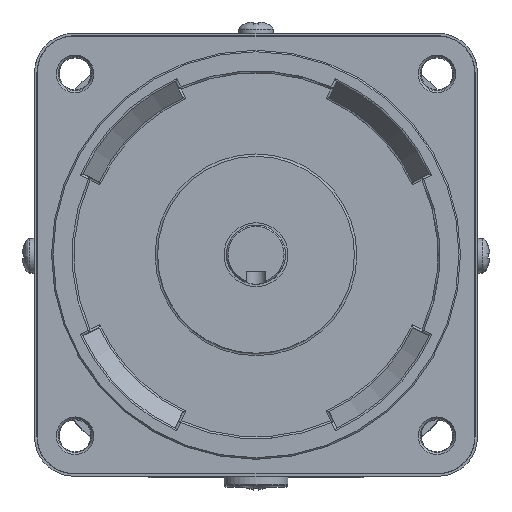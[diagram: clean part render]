
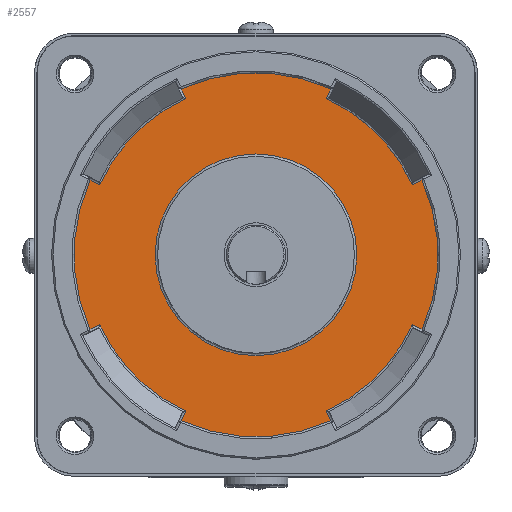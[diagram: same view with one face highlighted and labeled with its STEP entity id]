
A CAD part, top view. The second image highlights one B-rep face of the part: STEP entity #2557.
In plain terms, the highlighted planar face has unit normal (0, 0, 1).
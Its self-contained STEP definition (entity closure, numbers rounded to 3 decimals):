
#30 = VERTEX_POINT ( 'NONE', #14008 ) ;
#295 = CARTESIAN_POINT ( 'NONE',  ( 0., 0., -2. ) ) ;
#553 = ORIENTED_EDGE ( 'NONE', *, *, #1845, .T. ) ;
#755 = VERTEX_POINT ( 'NONE', #5558 ) ;
#930 = AXIS2_PLACEMENT_3D ( 'NONE', #14982, #7952, #5659 ) ;
#1073 = EDGE_CURVE ( 'NONE', #4031, #4149, #13074, .T. ) ;
#1146 = CIRCLE ( 'NONE', #4332, 20.5 ) ;
#1158 = AXIS2_PLACEMENT_3D ( 'NONE', #14625, #4239, #4169 ) ;
#1240 = CARTESIAN_POINT ( 'NONE',  ( -15.177, -33.73, -2. ) ) ;
#1370 = CARTESIAN_POINT ( 'NONE',  ( -14.338, 31.932, -2. ) ) ;
#1478 = CARTESIAN_POINT ( 'NONE',  ( 0., 0., -2. ) ) ;
#1538 = CARTESIAN_POINT ( 'NONE',  ( 14.242, 31.725, -2. ) ) ;
#1754 = VECTOR ( 'NONE', #7155, 1000. ) ;
#1845 = EDGE_CURVE ( 'NONE', #12634, #13134, #12842, .T. ) ;
#1846 = VERTEX_POINT ( 'NONE', #9884 ) ;
#1868 = ORIENTED_EDGE ( 'NONE', *, *, #4727, .T. ) ;
#1887 = ORIENTED_EDGE ( 'NONE', *, *, #5253, .T. ) ;
#1893 = CARTESIAN_POINT ( 'NONE',  ( 15.177, -33.73, -2. ) ) ;
#2044 = DIRECTION ( 'NONE',  ( -0.423, 0.906, 0. ) ) ;
#2177 = ORIENTED_EDGE ( 'NONE', *, *, #3215, .T. ) ;
#2282 = AXIS2_PLACEMENT_3D ( 'NONE', #10611, #4589, #6013 ) ;
#2423 = CARTESIAN_POINT ( 'NONE',  ( 0.211, 0.453, -2. ) ) ;
#2557 = ADVANCED_FACE ( 'NONE', ( #11200, #13408 ), #5294, .T. ) ;
#2580 = DIRECTION ( 'NONE',  ( 1., 0., 0. ) ) ;
#2671 = VERTEX_POINT ( 'NONE', #4740 ) ;
#2696 = EDGE_CURVE ( 'NONE', #755, #4498, #6043, .T. ) ;
#2856 = DIRECTION ( 'NONE',  ( 0., 0., 1. ) ) ;
#2903 = ORIENTED_EDGE ( 'NONE', *, *, #2696, .T. ) ;
#3046 = EDGE_CURVE ( 'NONE', #4498, #12634, #3209, .T. ) ;
#3118 = ORIENTED_EDGE ( 'NONE', *, *, #1073, .T. ) ;
#3168 = EDGE_CURVE ( 'NONE', #9737, #30, #8864, .T. ) ;
#3209 = LINE ( 'NONE', #7856, #14962 ) ;
#3215 = EDGE_CURVE ( 'NONE', #10537, #4454, #14494, .T. ) ;
#3493 = ORIENTED_EDGE ( 'NONE', *, *, #10694, .T. ) ;
#3514 = EDGE_CURVE ( 'NONE', #5640, #2671, #10345, .T. ) ;
#3525 = VERTEX_POINT ( 'NONE', #8107 ) ;
#3651 = LINE ( 'NONE', #2423, #1754 ) ;
#3810 = DIRECTION ( 'NONE',  ( 1., 0., 0. ) ) ;
#3839 = DIRECTION ( 'NONE',  ( 1., 0., 0. ) ) ;
#4031 = VERTEX_POINT ( 'NONE', #5029 ) ;
#4149 = VERTEX_POINT ( 'NONE', #7703 ) ;
#4169 = DIRECTION ( 'NONE',  ( 1., 0., 0. ) ) ;
#4239 = DIRECTION ( 'NONE',  ( 0., 0., 1. ) ) ;
#4293 = DIRECTION ( 'NONE',  ( -0.906, 0.423, 0. ) ) ;
#4332 = AXIS2_PLACEMENT_3D ( 'NONE', #11570, #5589, #10253 ) ;
#4334 = CARTESIAN_POINT ( 'NONE',  ( -33.73, -15.177, -2. ) ) ;
#4454 = VERTEX_POINT ( 'NONE', #1240 ) ;
#4483 = CIRCLE ( 'NONE', #8373, 36.987 ) ;
#4498 = VERTEX_POINT ( 'NONE', #1538 ) ;
#4583 = CARTESIAN_POINT ( 'NONE',  ( -14.242, -31.725, -2. ) ) ;
#4589 = DIRECTION ( 'NONE',  ( 0., 0., 1. ) ) ;
#4727 = EDGE_CURVE ( 'NONE', #2671, #5332, #6801, .T. ) ;
#4740 = CARTESIAN_POINT ( 'NONE',  ( -31.725, 14.242, -2. ) ) ;
#4890 = LINE ( 'NONE', #1370, #13172 ) ;
#4954 = DIRECTION ( 'NONE',  ( 0., 0., 1. ) ) ;
#5029 = CARTESIAN_POINT ( 'NONE',  ( 33.73, -15.177, -2. ) ) ;
#5139 = DIRECTION ( 'NONE',  ( 1., 0., 0. ) ) ;
#5253 = EDGE_CURVE ( 'NONE', #11675, #1846, #7124, .T. ) ;
#5294 = PLANE ( 'NONE',  #1158 ) ;
#5332 = VERTEX_POINT ( 'NONE', #11241 ) ;
#5448 = VECTOR ( 'NONE', #14423, 1000. ) ;
#5504 = CARTESIAN_POINT ( 'NONE',  ( 0., 0., -2. ) ) ;
#5510 = CARTESIAN_POINT ( 'NONE',  ( -14.242, 31.725, -2. ) ) ;
#5558 = CARTESIAN_POINT ( 'NONE',  ( 31.725, 14.242, -2. ) ) ;
#5589 = DIRECTION ( 'NONE',  ( 0., 0., -1. ) ) ;
#5640 = VERTEX_POINT ( 'NONE', #5510 ) ;
#5659 = DIRECTION ( 'NONE',  ( 1., 0., 0. ) ) ;
#5799 = CIRCLE ( 'NONE', #930, 34.775 ) ;
#5998 = VECTOR ( 'NONE', #9587, 1000. ) ;
#6013 = DIRECTION ( 'NONE',  ( 1., 0., 0. ) ) ;
#6043 = CIRCLE ( 'NONE', #8237, 34.775 ) ;
#6102 = VERTEX_POINT ( 'NONE', #1893 ) ;
#6579 = DIRECTION ( 'NONE',  ( 1., 0., 0. ) ) ;
#6801 = LINE ( 'NONE', #14901, #11363 ) ;
#6962 = EDGE_CURVE ( 'NONE', #1846, #10537, #5799, .T. ) ;
#6976 = CARTESIAN_POINT ( 'NONE',  ( -31.932, -14.338, -2. ) ) ;
#7124 = LINE ( 'NONE', #6976, #5998 ) ;
#7155 = DIRECTION ( 'NONE',  ( 0.906, -0.423, 0. ) ) ;
#7166 = ORIENTED_EDGE ( 'NONE', *, *, #11547, .T. ) ;
#7695 = ORIENTED_EDGE ( 'NONE', *, *, #3168, .T. ) ;
#7703 = CARTESIAN_POINT ( 'NONE',  ( 33.73, 15.177, -2. ) ) ;
#7856 = CARTESIAN_POINT ( 'NONE',  ( -0.453, 0.211, -2. ) ) ;
#7952 = DIRECTION ( 'NONE',  ( 0., 0., 1. ) ) ;
#7965 = LINE ( 'NONE', #14920, #8799 ) ;
#8107 = CARTESIAN_POINT ( 'NONE',  ( 20.5, 0., -2. ) ) ;
#8237 = AXIS2_PLACEMENT_3D ( 'NONE', #295, #4954, #3810 ) ;
#8373 = AXIS2_PLACEMENT_3D ( 'NONE', #11135, #14639, #9839 ) ;
#8456 = DIRECTION ( 'NONE',  ( 0., 0., 1. ) ) ;
#8605 = DIRECTION ( 'NONE',  ( 0.423, -0.906, 0. ) ) ;
#8799 = VECTOR ( 'NONE', #14995, 1000. ) ;
#8864 = CIRCLE ( 'NONE', #2282, 34.775 ) ;
#8998 = LINE ( 'NONE', #9313, #14469 ) ;
#9010 = EDGE_CURVE ( 'NONE', #3525, #3525, #1146, .T. ) ;
#9035 = AXIS2_PLACEMENT_3D ( 'NONE', #12206, #8456, #2580 ) ;
#9313 = CARTESIAN_POINT ( 'NONE',  ( 14.338, -31.932, -2. ) ) ;
#9347 = CARTESIAN_POINT ( 'NONE',  ( 0., 0., -2. ) ) ;
#9504 = DIRECTION ( 'NONE',  ( 0., 0., 1. ) ) ;
#9507 = EDGE_CURVE ( 'NONE', #30, #4031, #3651, .T. ) ;
#9587 = DIRECTION ( 'NONE',  ( 0.906, 0.423, 0. ) ) ;
#9737 = VERTEX_POINT ( 'NONE', #12637 ) ;
#9768 = ORIENTED_EDGE ( 'NONE', *, *, #10425, .T. ) ;
#9839 = DIRECTION ( 'NONE',  ( 1., 0., 0. ) ) ;
#9884 = CARTESIAN_POINT ( 'NONE',  ( -31.725, -14.242, -2. ) ) ;
#9933 = AXIS2_PLACEMENT_3D ( 'NONE', #5504, #13461, #6579 ) ;
#9948 = ORIENTED_EDGE ( 'NONE', *, *, #14839, .T. ) ;
#10187 = EDGE_LOOP ( 'NONE', ( #11506 ) ) ;
#10253 = DIRECTION ( 'NONE',  ( 1., 0., 0. ) ) ;
#10345 = CIRCLE ( 'NONE', #12533, 34.775 ) ;
#10425 = EDGE_CURVE ( 'NONE', #6102, #9737, #8998, .T. ) ;
#10537 = VERTEX_POINT ( 'NONE', #4583 ) ;
#10611 = CARTESIAN_POINT ( 'NONE',  ( 0., 0., -2. ) ) ;
#10694 = EDGE_CURVE ( 'NONE', #4454, #6102, #4483, .T. ) ;
#10772 = ORIENTED_EDGE ( 'NONE', *, *, #6962, .T. ) ;
#11135 = CARTESIAN_POINT ( 'NONE',  ( 0., 0., -2. ) ) ;
#11200 = FACE_OUTER_BOUND ( 'NONE', #11821, .T. ) ;
#11241 = CARTESIAN_POINT ( 'NONE',  ( -33.73, 15.177, -2. ) ) ;
#11363 = VECTOR ( 'NONE', #4293, 1000. ) ;
#11506 = ORIENTED_EDGE ( 'NONE', *, *, #9010, .T. ) ;
#11547 = EDGE_CURVE ( 'NONE', #13134, #5640, #4890, .T. ) ;
#11570 = CARTESIAN_POINT ( 'NONE',  ( 0., 0., -2. ) ) ;
#11675 = VERTEX_POINT ( 'NONE', #4334 ) ;
#11821 = EDGE_LOOP ( 'NONE', ( #13411, #3118, #9948, #2903, #13160, #553, #7166, #13647, #1868, #14204, #1887, #10772, #2177, #3493, #9768, #7695 ) ) ;
#12206 = CARTESIAN_POINT ( 'NONE',  ( 0., 0., -2. ) ) ;
#12382 = CARTESIAN_POINT ( 'NONE',  ( 15.177, 33.73, -2. ) ) ;
#12533 = AXIS2_PLACEMENT_3D ( 'NONE', #9347, #9504, #3839 ) ;
#12634 = VERTEX_POINT ( 'NONE', #12382 ) ;
#12637 = CARTESIAN_POINT ( 'NONE',  ( 14.242, -31.725, -2. ) ) ;
#12842 = CIRCLE ( 'NONE', #9933, 36.987 ) ;
#13074 = CIRCLE ( 'NONE', #14789, 36.987 ) ;
#13134 = VERTEX_POINT ( 'NONE', #13950 ) ;
#13160 = ORIENTED_EDGE ( 'NONE', *, *, #3046, .T. ) ;
#13172 = VECTOR ( 'NONE', #8605, 1000. ) ;
#13351 = CARTESIAN_POINT ( 'NONE',  ( 0.453, -0.211, -2. ) ) ;
#13408 = FACE_BOUND ( 'NONE', #10187, .T. ) ;
#13411 = ORIENTED_EDGE ( 'NONE', *, *, #9507, .T. ) ;
#13461 = DIRECTION ( 'NONE',  ( 0., 0., 1. ) ) ;
#13647 = ORIENTED_EDGE ( 'NONE', *, *, #3514, .T. ) ;
#13950 = CARTESIAN_POINT ( 'NONE',  ( -15.177, 33.73, -2. ) ) ;
#13971 = DIRECTION ( 'NONE',  ( 0.423, 0.906, 0. ) ) ;
#14008 = CARTESIAN_POINT ( 'NONE',  ( 31.725, -14.242, -2. ) ) ;
#14046 = EDGE_CURVE ( 'NONE', #5332, #11675, #14642, .T. ) ;
#14204 = ORIENTED_EDGE ( 'NONE', *, *, #14046, .T. ) ;
#14423 = DIRECTION ( 'NONE',  ( -0.423, -0.906, 0. ) ) ;
#14469 = VECTOR ( 'NONE', #2044, 1000. ) ;
#14494 = LINE ( 'NONE', #13351, #5448 ) ;
#14625 = CARTESIAN_POINT ( 'NONE',  ( 0., 0., -2. ) ) ;
#14639 = DIRECTION ( 'NONE',  ( 0., 0., 1. ) ) ;
#14642 = CIRCLE ( 'NONE', #9035, 36.987 ) ;
#14789 = AXIS2_PLACEMENT_3D ( 'NONE', #1478, #2856, #5139 ) ;
#14839 = EDGE_CURVE ( 'NONE', #4149, #755, #7965, .T. ) ;
#14901 = CARTESIAN_POINT ( 'NONE',  ( -0.211, -0.453, -2. ) ) ;
#14920 = CARTESIAN_POINT ( 'NONE',  ( 31.932, 14.338, -2. ) ) ;
#14962 = VECTOR ( 'NONE', #13971, 1000. ) ;
#14982 = CARTESIAN_POINT ( 'NONE',  ( 0., 0., -2. ) ) ;
#14995 = DIRECTION ( 'NONE',  ( -0.906, -0.423, 0. ) ) ;
